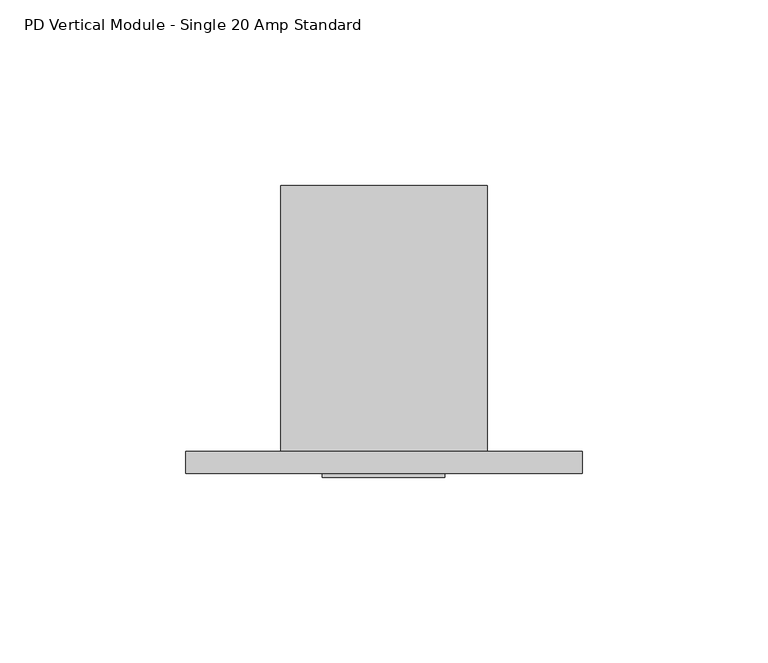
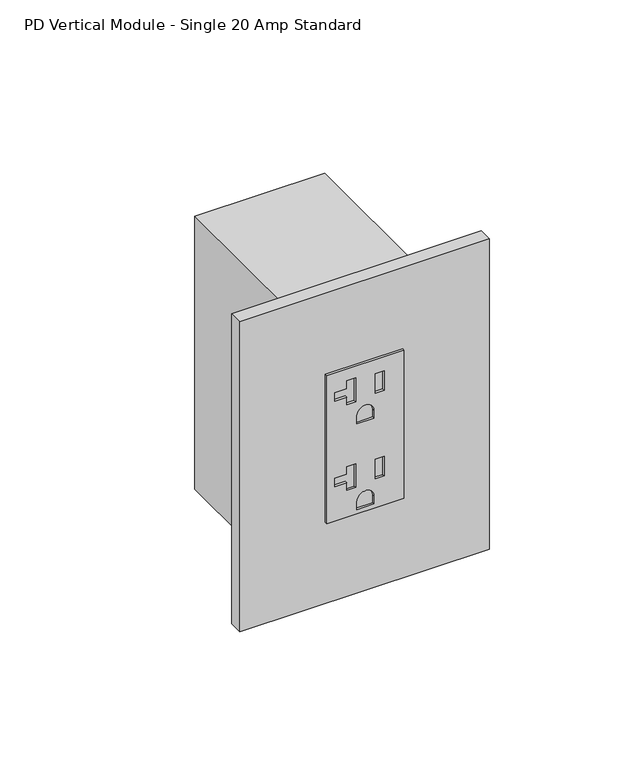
"""IFC4 building model written with IfcOpenShell, lengths in millimetres: proxy geometry, Electrical-Teknion-EPDMS_Vertical_Power_Data_Single-R2019 : PD Vertical Module - Single 20 Amp Standard."""

from ifc_helpers import new_model, si_unit, point, frame, frame_2d, origin, place, context, project, spatial, polyline, circle_curve, trimmed, segment, composite_curve, outline, extrude, source, transform, mapped, element, save


def pd_vertical_module_single_20_amp_standard_4b623c85(model_context):
    return source(origin(), model_context, "Body", "SweptSolid", [
        extrude(outline(polyline([(414.4772, 44.0944), (414.4772, 11.0998), (347.5228, 11.0998), (347.5228, 44.0944), (414.4772, 44.0944)]), holes=[polyline([(409.0924, 23.4442), (398.272, 23.4442), (398.272, 19.6088), (401.7518, 19.6088), (401.7518, 14.5034), (405.6126, 14.5034), (405.6126, 19.6088), (409.0924, 19.6088), (409.0924, 23.4442)]), polyline([(408.1145, 35.6108), (399.2499, 35.6108), (399.2499, 31.7754), (408.1145, 31.7754), (408.1145, 35.6108)]), composite_curve([segment(polyline([(388.0866, 31.2293), (388.0866, 23.9649), (391.7188, 23.9649)]), True, "CONTINUOUS"), segment(trimmed(circle_curve(frame_2d((391.7188, 27.5971)), 3.6322), [point((391.7188, 23.9649))], [point((391.7188, 31.2293))], True, "CARTESIAN"), True, "CONTINUOUS"), segment(polyline([(391.7188, 31.2293), (388.0866, 31.2293)]), True, "CONTINUOUS")], self_intersect=False), polyline([(370.3574, 23.4442), (359.537, 23.4442), (359.537, 19.6088), (363.0168, 19.6088), (363.0168, 14.5034), (366.8776, 14.5034), (366.8776, 19.6088), (370.3574, 19.6088), (370.3574, 23.4442)]), polyline([(369.3795, 35.6108), (360.5149, 35.6108), (360.5149, 31.7754), (369.3795, 31.7754), (369.3795, 35.6108)]), composite_curve([segment(polyline([(349.3516, 31.2293), (349.3516, 23.9649), (352.9838, 23.9649)]), True, "CONTINUOUS"), segment(trimmed(circle_curve(frame_2d((352.9838, 27.5971)), 3.6322), [point((352.9838, 23.9649))], [point((352.9838, 31.2293))], True, "CARTESIAN"), True, "CONTINUOUS"), segment(polyline([(352.9838, 31.2293), (349.3516, 31.2293)]), True, "CONTINUOUS")], self_intersect=False)]), frame((0.0, -6.9294746, 0.0), z_axis=(0.0, 1.0, 0.0), x_axis=(0.0, 0.0, 1.0)), (0.0, 0.0, 1.0), 1.0366746),
        extrude(outline(polyline([(-25.6794, 0.0), (81.2292, 0.0), (81.2292, -5.8928), (-25.6794, -5.8928), (-25.6794, 0.0)])), frame((0.0, 0.0, 310.8198), z_axis=(0.0, 0.0, 1.0), x_axis=(1.0, 0.0, 0.0)), (0.0, 0.0, 1.0), 140.3604),
        extrude(outline(polyline([(55.5498, 0.0), (0.0, 0.0), (0.0, 71.7296), (55.5498, 71.7296), (55.5498, 0.0)])), frame((0.0, 0.0, 319.2526), z_axis=(0.0, 0.0, 1.0), x_axis=(1.0, 0.0, 0.0)), (0.0, 0.0, 1.0), 123.4948),
    ])


if __name__ == "__main__":
    model = new_model("IFC4")
    model_context = context("Model", 3, world=origin())
    ifc_project = project(units=[si_unit("LENGTHUNIT", "METRE", prefix="MILLI")], contexts=[model_context])
    site = spatial("IfcSite", under=ifc_project)
    building = spatial("IfcBuilding", under=site)
    placement = place(None, origin())
    pd_vertical_module_single_20_amp_standard_shape = pd_vertical_module_single_20_amp_standard_4b623c85(model_context)
    element("IfcBuildingElementProxy", 1, Name="Electrical-Teknion-EPDMS_Vertical_Power_Data_Single-R2019 : PD Vertical Module - Single 20 Amp Standard", ObjectType="Electrical-Teknion-EPDMS_Vertical_Power_Data_Single-R2019 : PD Vertical Module - Single 20 Amp Standard", at=placement, inside=building, context=model_context, shape_type="MappedRepresentation", body=[
        mapped(pd_vertical_module_single_20_amp_standard_shape, transform((0.0, 0.0, 0.0), x_axis=(1.0, 0.0, 0.0), y_axis=(0.0, 1.0, 0.0), z_axis=(0.0, 0.0, 1.0))),
    ])
    save(model, "model.ifc")
